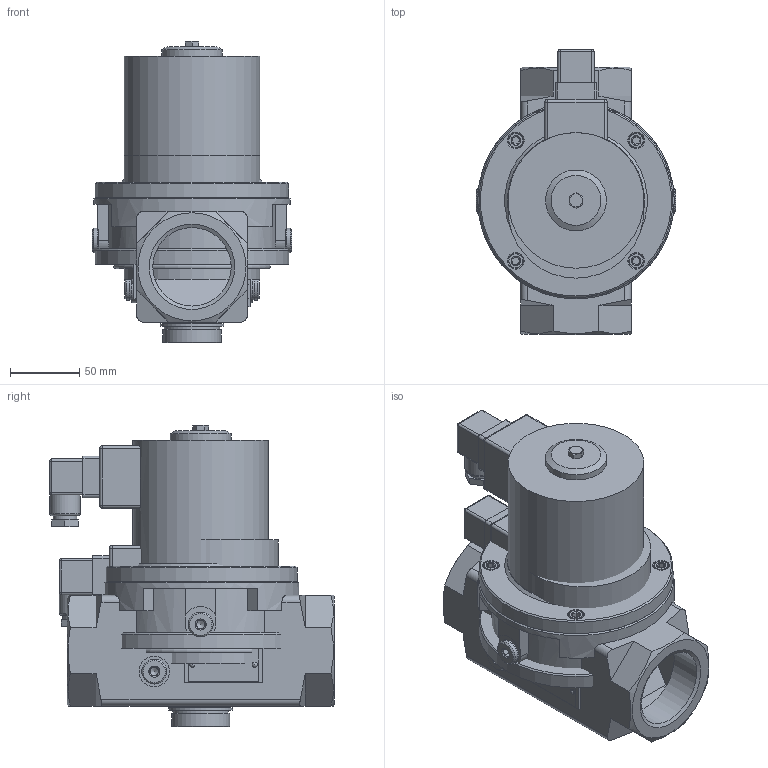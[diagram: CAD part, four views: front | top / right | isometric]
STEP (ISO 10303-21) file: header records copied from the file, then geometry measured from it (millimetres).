
FILE_DESCRIPTION( ( 'Unknown' ), '1' );
FILE_NAME( 'D:/Wyroby/Widoki gabarytowe/Zawory ZEA/ZEA_50/ZEA_50.stp', 'Unknown', ( 'Unknown' ), ( 'Unknown' ), 'XStep 1.0', 'Unknown', ' ' );
FILE_SCHEMA( ( 'CONFIG_CONTROL_DESIGN' ) );
Length unit declared in the file: millimetre
Products named in the file (42): Wa_031_01_01z_korkami; Assem1; Wa_031_01_02; Wa_041_01_00; Wa_031_01_03; Wa_031_01_04; Wa_031_01_01bez_gniazd.z_kork.; Wa_031_01_01_001gotowe; Wa_031_01_01got.; Wa_031_01_05_001got; Wa_031_01_04_001; Wa_031_01_04_002got; Wa_031_01_02_001zaci從i黎y; Wa_031_01_02_003zaci從i黎a; Wa_031_01_02_002; Wa_031_01_03bez_ko³ka; Ko³ek6x45; Wa_031_01_00_012; Wa_031_01_00_010; T-026; K-006got.; Wa_031_01_00_001; Œ-008ImbusM6x16; Wa_031_01_00_005; Œ-006m6x12szeœc.; Wa_031_01_00_003; Wa_031_01_00_006; Wa_053_01_00_002彡i從i黎a30,5; Oring105x3,5roz_彡i從.; Wa_031_01_06; Wa_031_01_00_007; Wa_031_01_00_008; Cewka_40-65
Bounding box: 144 x 205.5 x 218 mm (x, y, z)
Volume: 4860032.8 mm3; surface area: 1235539.7 mm2
Topology: 120 solids, 120 shells, 2057 faces, 4563 edges, 2920 vertices
Faces by surface type: plane 1044, cylinder 570, cone 370, torus 41, sphere 25, bspline 7
Full cylindrical faces by diameter (mm): 2 x5, 2.1 x8, 2.5 x10, 4.917 x20, 6 x23, 6.2 x10, 6.5 x3, 6.6 x12, 8 x4, 10 x20, 11 x12, 11.445 x16, 13 x12, 13.8 x12, 14 x3, 17 x2, 18 x24, 22 x10, 24.8 x4, 26 x3, 29 x4, 30 x7, 32 x16, 32.2 x8, 32.7 x12, 34.1 x4, 34.6 x8, 34.917 x8, 36 x8, 36.317 x8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
Entity records: 19261 total; most frequent: CARTESIAN_POINT 5021, DIRECTION 2701, ORIENTED_EDGE 2032, AXIS2_PLACEMENT_3D 1128, EDGE_CURVE 1016, EDGE_LOOP 970, VERTEX_POINT 787, FACE_OUTER_BOUND 749
